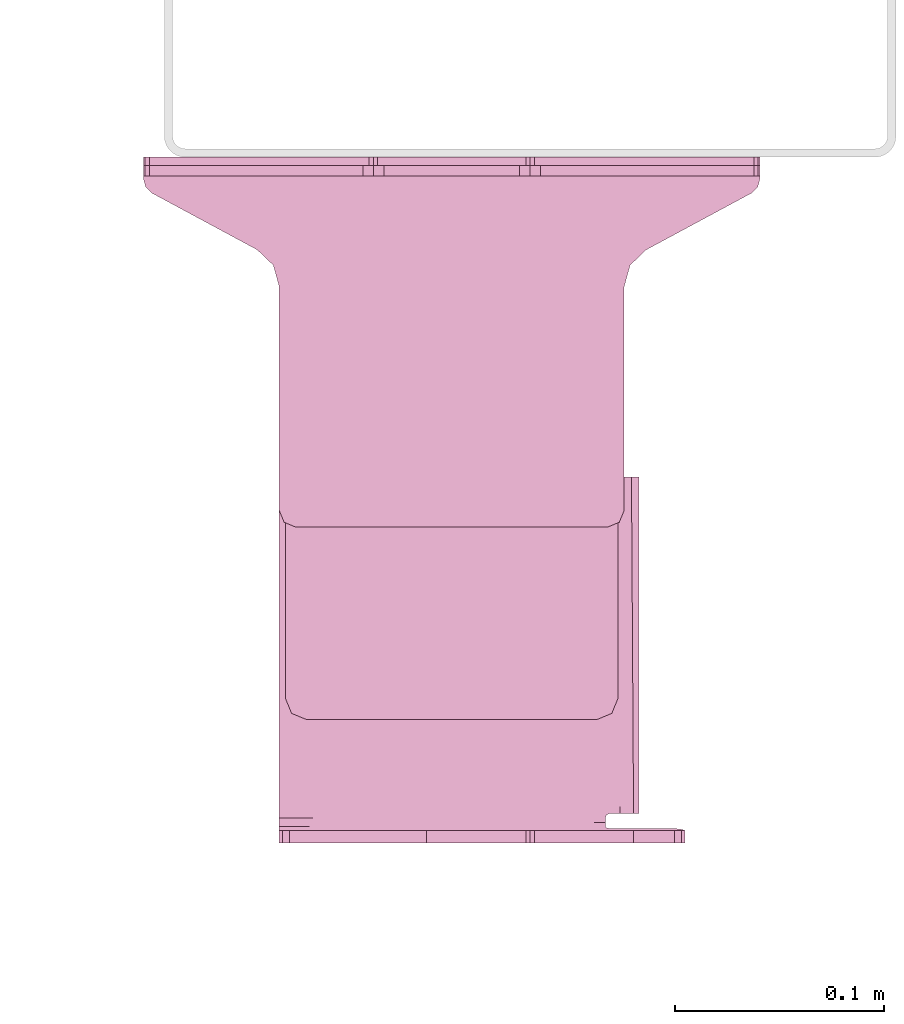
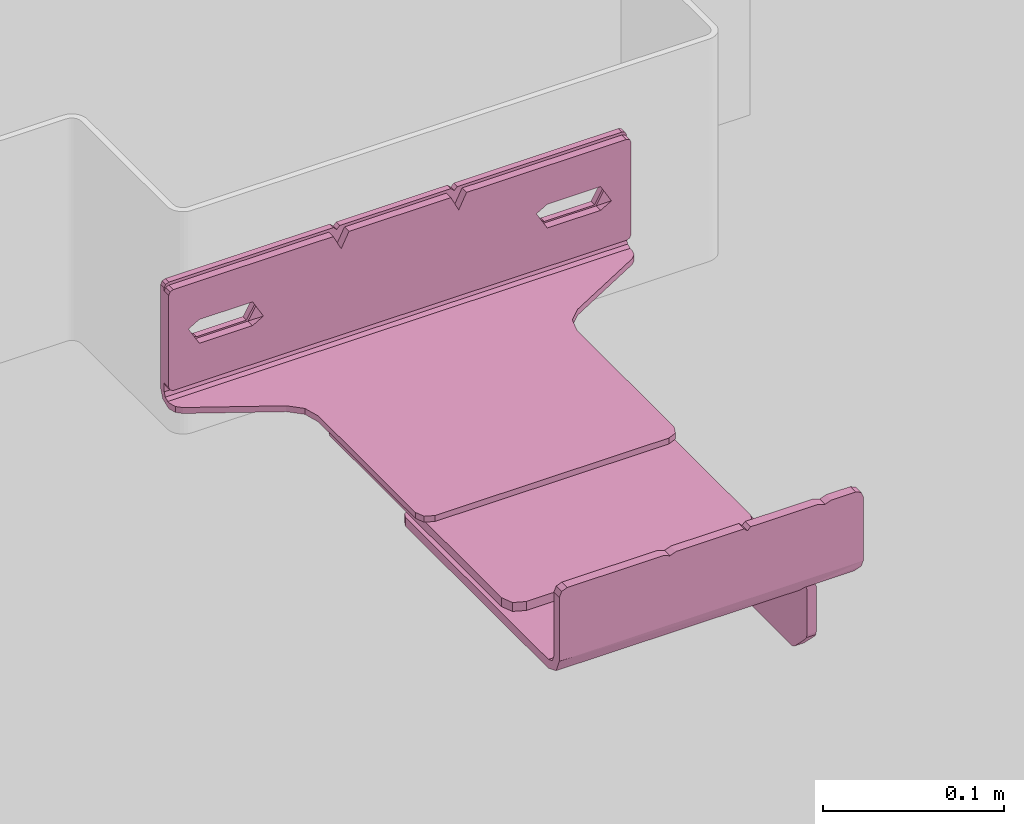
# One storey, part 12 of 15: 1 transport element.
"""IFC2X3 building model written with IfcOpenShell, lengths in millimetres."""

import ifcopenshell
import ifcopenshell.guid

model = None  # the IFC model being written
_history = None  # IfcOwnerHistory: only IFC2X3 demands one
_inside = {}  # id of a spatial element -> (the spatial element, [elements in it])
_under = {}  # id of a project, library or spatial element -> (it, [spatial elements below it])
_declared = {}  # id of a project -> (the project, [libraries it declares])
_typed = {}  # id of a type object -> (the type object, [elements of that type])
_made_of = {}  # id of a material, layer set ... -> (it, [elements and type objects made of it])


def new_model(schema):
    """Start an empty IFC model of exactly this schema.

    Asked for "IFC4X3", IfcOpenShell would pick the latest addendum, in which some entities
    have other attributes; the version numbers below select the first issue.
    IFC2X3 requires an IfcOwnerHistory on every rooted entity: one is made here for all.
    """
    global model, _history
    if schema == "IFC4X3":
        model = ifcopenshell.file(schema_version=(4, 3, 0, 0))
    else:
        model = ifcopenshell.file(schema=schema)
    _inside.clear()
    _under.clear()
    _declared.clear()
    _typed.clear()
    _made_of.clear()
    _history = None
    if model.schema == "IFC2X3":
        org = make("IfcOrganization", Name="unknown")
        user = make(
            "IfcPersonAndOrganization",
            ThePerson=make("IfcPerson", FamilyName="unknown"),
            TheOrganization=org,
        )
        app = make(
            "IfcApplication",
            ApplicationDeveloper=org,
            Version="unknown",
            ApplicationFullName="unknown",
            ApplicationIdentifier="unknown",
        )
        _history = make(
            "IfcOwnerHistory",
            OwningUser=user,
            OwningApplication=app,
            ChangeAction="ADDED",
            CreationDate=0,
        )
    return model


def make(cls, **values):
    """One entity of the class cls with the attributes given. An attribute that is None is left unset."""
    return model.create_entity(
        cls, **{name: value for name, value in values.items() if value is not None}
    )


def entity(cls, *values):
    """Any entity or typed value of the class cls, its attributes in the order of the schema. None: left unset."""
    e = model.create_entity(cls)
    for i, value in enumerate(values):
        if value is not None:
            e[i] = value
    return e


def rooted(cls, **values):
    """An entity with a GlobalId (a new one), such as an element, a storey or a relation."""
    return make(cls, GlobalId=ifcopenshell.guid.new(), OwnerHistory=_history, **values)


def si_unit(unit_type, name, prefix=None):
    """IfcSIUnit, for example si_unit("LENGTHUNIT", "METRE", prefix="MILLI")."""
    return make("IfcSIUnit", UnitType=unit_type, Prefix=prefix, Name=name)


def converted_unit(unit_type, name, factor, base, dimensions=None, offset=None):
    """IfcConversionBasedUnit, such as the inch: factor (a typed value) times the base unit."""
    return make(
        "IfcConversionBasedUnit"
        if offset is None
        else "IfcConversionBasedUnitWithOffset",
        ConversionOffset=offset,
        Dimensions=None
        if dimensions is None
        else entity("IfcDimensionalExponents", *dimensions),
        UnitType=unit_type,
        Name=name,
        ConversionFactor=make(
            "IfcMeasureWithUnit", ValueComponent=factor, UnitComponent=base
        ),
    )


def derived_unit(unit_type, elements):
    """IfcDerivedUnit: a product of units, each with its exponent."""
    return make(
        "IfcDerivedUnit",
        Elements=[
            make("IfcDerivedUnitElement", Unit=unit, Exponent=power)
            for unit, power in elements
        ],
        UnitType=unit_type,
    )


def assignment(units):
    """IfcUnitAssignment: the units of a project."""
    return None if units is None else make("IfcUnitAssignment", Units=units)


def point(xyz):
    """IfcCartesianPoint."""
    return None if xyz is None else make("IfcCartesianPoint", Coordinates=xyz)


def direction(xyz):
    """IfcDirection."""
    return None if xyz is None else make("IfcDirection", DirectionRatios=xyz)


def frame(location, z_axis=None, x_axis=None):
    """IfcAxis2Placement3D, a coordinate frame: its origin and axes. An axis left out is left unset."""
    return make(
        "IfcAxis2Placement3D",
        Location=point(location),
        Axis=direction(z_axis),
        RefDirection=direction(x_axis),
    )


def origin():
    """The frame at (0, 0, 0) with its axes left unset."""
    return frame((0.0, 0.0, 0.0))


def place(relative_to, where):
    """IfcLocalPlacement: puts the frame where relative to a parent placement (None: the world)."""
    return make(
        "IfcLocalPlacement", PlacementRelTo=relative_to, RelativePlacement=where
    )


def context(
    kind, dimensions, precision=None, world=None, true_north=None, identifier=None
):
    """IfcGeometricRepresentationContext, for example the 3D "Model" context."""
    return make(
        "IfcGeometricRepresentationContext",
        ContextIdentifier=identifier,
        ContextType=kind,
        CoordinateSpaceDimension=dimensions,
        Precision=precision,
        WorldCoordinateSystem=world,
        TrueNorth=true_north,
    )


def subcontext(parent, identifier, kind, view, scale=None):
    """IfcGeometricRepresentationSubContext, for example "Body" below "Model"."""
    return make(
        "IfcGeometricRepresentationSubContext",
        ContextIdentifier=identifier,
        ContextType=kind,
        ParentContext=parent,
        TargetScale=scale,
        TargetView=view,
    )


def project(units=None, contexts=None):
    """IfcProject with its units and contexts."""
    return rooted(
        "IfcProject",
        Name="project",
        RepresentationContexts=contexts,
        UnitsInContext=assignment(units),
    )


def spatial(cls, under=None, at=None, **own):
    """A site, building, storey or space (cls), placed at a placement, below another one or the project."""
    s = rooted(cls, ObjectPlacement=at, **own)
    if under is not None:
        _under.setdefault(under.id(), (under, []))[1].append(s)
    return s


def faces_of(points, faces, orient=None, outer=None):
    """IfcFace entities. A face is a list of loops; a loop is a list of indices into points, from 0.

    orient and outer hold one flag for each loop. By default every Orientation is true, the
    first loop of a face is its IfcFaceOuterBound and the others are IfcFaceBound.
    """
    made = []
    for i, loops in enumerate(faces):
        bounds = []
        for j, loop in enumerate(loops):
            is_outer = j == 0 if outer is None else outer[i][j]
            bounds.append(
                make(
                    "IfcFaceOuterBound" if is_outer else "IfcFaceBound",
                    Bound=make("IfcPolyLoop", Polygon=[points[k] for k in loop]),
                    Orientation=True if orient is None else orient[i][j],
                )
            )
        made.append(make("IfcFace", Bounds=bounds))
    return made


def faceted_brep(points, faces, orient=None, outer=None, voids=None):
    """IfcFacetedBrep: a solid bounded by flat faces; with voids (closed shells), ...WithVoids."""
    shared = [point(p) for p in points]
    hull = make("IfcClosedShell", CfsFaces=faces_of(shared, faces, orient, outer))
    if voids is None:
        return make("IfcFacetedBrep", Outer=hull)
    return make(
        "IfcFacetedBrepWithVoids",
        Outer=hull,
        Voids=[
            make(cls, CfsFaces=faces_of(shared, fs, o, b)) for cls, fs, o, b in voids
        ],
    )


def shape(context_of_items, identifier, shape_type, items):
    """IfcShapeRepresentation: the items that make up one representation, for example the "Body"."""
    return make(
        "IfcShapeRepresentation",
        ContextOfItems=context_of_items,
        RepresentationIdentifier=identifier,
        RepresentationType=shape_type,
        Items=items,
    )


def source(mapping_origin, context_of_items, identifier, shape_type, items):
    """IfcRepresentationMap: a shape defined once, which mapped items show again and again."""
    return make(
        "IfcRepresentationMap",
        MappingOrigin=mapping_origin,
        MappedRepresentation=shape(context_of_items, identifier, shape_type, items),
    )


def transform(
    local_origin,
    x_axis=None,
    y_axis=None,
    z_axis=None,
    scale=None,
    scale2=None,
    scale3=None,
    uniform=True,
):
    """IfcCartesianTransformationOperator3D, or its non-uniform kind. x_axis, y_axis, z_axis: its Axis1, 2, 3."""
    if uniform:
        return make(
            "IfcCartesianTransformationOperator3D",
            Axis1=direction(x_axis),
            Axis2=direction(y_axis),
            LocalOrigin=point(local_origin),
            Scale=scale,
            Axis3=direction(z_axis),
        )
    return make(
        "IfcCartesianTransformationOperator3DnonUniform",
        Axis1=direction(x_axis),
        Axis2=direction(y_axis),
        LocalOrigin=point(local_origin),
        Scale=scale,
        Axis3=direction(z_axis),
        Scale2=scale2,
        Scale3=scale3,
    )


def mapped(mapping_source, mapping_target):
    """IfcMappedItem: shows the shape of a source again, moved by a transform."""
    return make(
        "IfcMappedItem", MappingSource=mapping_source, MappingTarget=mapping_target
    )


def material(Name=None, Category=None):
    """IfcMaterial."""
    return make("IfcMaterial", Name=Name, Category=Category)


def made_of(thing, what):
    """Note that an element or type object is made of a material, layer set ...; save() writes the relation."""
    if what is not None:
        _made_of.setdefault(what.id(), (what, []))[1].append(thing)
    return thing


def type_object(cls, material=None, **own):
    """A type object (cls), such as IfcWallType, which elements share."""
    return made_of(rooted(cls, **own), material)


def type_shapes(of_type, sources):
    """Give a type object the sources (RepresentationMaps) that its elements show as mapped items."""
    of_type.RepresentationMaps = sources


def element(
    cls,
    number,
    at=None,
    inside=None,
    cuts=None,
    type_object=None,
    material=None,
    context=None,
    identifier="Body",
    shape_type=None,
    held_by="IfcProductDefinitionShape",
    body=None,
    shapes=None,
    **own,
):
    """One element of the class cls, such as IfcWall. Its Tag is "e" and its number.

    at: its placement. inside: the storey or other place that contains it. cuts: it is an
    opening in that element (IfcRelVoidsElement). A single representation is given by context,
    identifier, shape_type and body (its items); several are given by shapes. held_by: the class
    of the entity that holds the representations. save() writes the other relations.
    """
    e = rooted(cls, Tag="e%d" % number, ObjectPlacement=at, **own)
    if body is not None:
        shapes = [shape(context, identifier, shape_type, body)]
    if shapes is not None:
        e.Representation = make(held_by, Representations=shapes)
    if inside is not None:
        _inside.setdefault(inside.id(), (inside, []))[1].append(e)
    if cuts is not None:
        rooted(
            "IfcRelVoidsElement", RelatingBuildingElement=cuts, RelatedOpeningElement=e
        )
    if type_object is not None:
        _typed.setdefault(type_object.id(), (type_object, []))[1].append(e)
    return made_of(e, material)


def aggregate(whole, parts):
    """IfcRelAggregates: a whole, such as a stair, and the parts it consists of."""
    return rooted("IfcRelAggregates", RelatingObject=whole, RelatedObjects=parts)


def save(model, path):
    """Write the relations noted so far, then the file.

    IfcRelAggregates (storeys below a building ...), IfcRelContainedInSpatialStructure (elements
    in a storey), IfcRelDefinesByType, IfcRelAssociatesMaterial and IfcRelDeclares: one each for
    every whole, place, type object, material and project.
    """
    for whole, parts in _under.values():
        aggregate(whole, parts)
    for where, things in _inside.values():
        rooted(
            "IfcRelContainedInSpatialStructure",
            RelatedElements=things,
            RelatingStructure=where,
        )
    for kind, things in _typed.values():
        rooted("IfcRelDefinesByType", RelatedObjects=things, RelatingType=kind)
    for what, things in _made_of.values():
        rooted("IfcRelAssociatesMaterial", RelatedObjects=things, RelatingMaterial=what)
    for by, libraries in _declared.values():
        rooted("IfcRelDeclares", RelatingContext=by, RelatedDefinitions=libraries)
    model.write(path)


model = new_model("IFC2X3")

# Units and contexts
model_context = context("Model", 3, precision=0.01, world=origin(), true_north=direction((6.12303176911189e-17, 1.0)))
body_context = subcontext(model_context, "Body", "Model", "MODEL_VIEW")
ifc_project = project(units=[si_unit("LENGTHUNIT", "METRE", prefix="MILLI"), si_unit("AREAUNIT", "SQUARE_METRE"), si_unit("VOLUMEUNIT", "CUBIC_METRE"), converted_unit("PLANEANGLEUNIT", "DEGREE", entity("IfcRatioMeasure", 0.0174532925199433), si_unit("PLANEANGLEUNIT", "RADIAN"), dimensions=[0, 0, 0, 0, 0, 0, 0]), si_unit("MASSUNIT", "GRAM", prefix="KILO"), derived_unit("MASSDENSITYUNIT", [(si_unit("MASSUNIT", "GRAM", prefix="KILO"), 1), (si_unit("LENGTHUNIT", "METRE"), -3)]), si_unit("TIMEUNIT", "SECOND"), si_unit("FREQUENCYUNIT", "HERTZ"), si_unit("THERMODYNAMICTEMPERATUREUNIT", "DEGREE_CELSIUS"), derived_unit("THERMALTRANSMITTANCEUNIT", [(si_unit("MASSUNIT", "GRAM", prefix="KILO"), 1), (si_unit("THERMODYNAMICTEMPERATUREUNIT", "KELVIN"), -1), (si_unit("TIMEUNIT", "SECOND"), -3)]), derived_unit("VOLUMETRICFLOWRATEUNIT", [(si_unit("LENGTHUNIT", "METRE"), 3), (si_unit("TIMEUNIT", "SECOND"), -1)]), si_unit("ELECTRICCURRENTUNIT", "AMPERE"), si_unit("ELECTRICVOLTAGEUNIT", "VOLT"), si_unit("POWERUNIT", "WATT"), si_unit("FORCEUNIT", "NEWTON", prefix="KILO"), si_unit("ILLUMINANCEUNIT", "LUX"), si_unit("LUMINOUSFLUXUNIT", "LUMEN"), si_unit("LUMINOUSINTENSITYUNIT", "CANDELA"), derived_unit("USERDEFINED", [(si_unit("MASSUNIT", "GRAM", prefix="KILO"), -1), (si_unit("LENGTHUNIT", "METRE"), -2), (si_unit("TIMEUNIT", "SECOND"), 3), (si_unit("LUMINOUSFLUXUNIT", "LUMEN"), 1)]), derived_unit("LINEARVELOCITYUNIT", [(si_unit("LENGTHUNIT", "METRE"), 1), (si_unit("TIMEUNIT", "SECOND"), -1)]), si_unit("PRESSUREUNIT", "PASCAL"), derived_unit("USERDEFINED", [(si_unit("LENGTHUNIT", "METRE"), -2), (si_unit("MASSUNIT", "GRAM", prefix="KILO"), 1), (si_unit("TIMEUNIT", "SECOND"), -2)])], contexts=[model_context])

# Site, building, storey, space
site_placement = place(None, frame((-151.875543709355, 2715.0, 0.0)))
site = spatial("IfcSite", under=ifc_project, at=site_placement, Name="Surface", CompositionType="ELEMENT")
building_placement = place(site_placement, origin())
building = spatial("IfcBuilding", under=site, at=building_placement, CompositionType="ELEMENT")
storey_placement = place(building_placement, frame((0.0, 0.0, 7670.0)))
storey = spatial("IfcBuildingStorey", under=building, at=storey_placement, Name="uus 3 korrus", CompositionType="ELEMENT", Elevation=7670.00000000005)
space_placement = place(storey_placement, origin())
space = spatial("IfcSpace", under=storey, at=space_placement, Name="327a", CompositionType="ELEMENT", InteriorOrExteriorSpace="INTERNAL")

# Transport element
ifc_material = material(Name="Generic")
transport_element_type = type_object("IfcTransportElementType", Name="KONE_Car_Bracket_KM51029396V001_L184-394", material=ifc_material)
shared_shape = source(origin(), body_context, "Body", "Brep", [
    faceted_brep([(69.5952722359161, 67.5952722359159, 70.5952722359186), (72.5242044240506, 67.5952722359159, 63.5242044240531), (72.5242044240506, 61.5952722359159, 63.5242044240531), (69.5952722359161, 61.5952722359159, 70.5952722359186), (79.5952722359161, 67.5952722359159, 60.5952722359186), (79.5952722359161, 61.5952722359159, 60.5952722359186), (218.595272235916, 67.5952722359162, 60.5952722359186), (218.595272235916, 61.5952722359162, 60.5952722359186), (69.5952722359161, 67.5952722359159, 260.595272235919), (72.5242044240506, 67.5952722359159, 267.666340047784), (79.5952722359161, 67.5952722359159, 270.595272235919), (218.595272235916, 67.5952722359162, 270.595272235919), (225.666340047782, 67.5952722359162, 267.666340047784), (228.595272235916, 67.5952722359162, 260.595272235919), (228.595272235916, 67.5952722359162, 70.5952722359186), (225.666340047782, 67.5952722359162, 63.5242044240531), (69.5952722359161, 61.5952722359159, 260.595272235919), (72.5242044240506, 61.5952722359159, 267.666340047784), (79.5952722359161, 61.5952722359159, 270.595272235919), (218.595272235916, 61.5952722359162, 270.595272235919), (225.666340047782, 61.5952722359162, 63.5242044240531), (228.595272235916, 61.5952722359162, 70.5952722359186), (228.595272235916, 61.5952722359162, 260.595272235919), (225.666340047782, 61.5952722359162, 267.666340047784)], [[[0, 1, 2, 3]], [[4, 5, 2, 1]], [[5, 4, 6, 7]], [[4, 1, 0, 8, 9, 10, 11, 12, 13, 14, 15, 6]], [[8, 16, 17, 9]], [[17, 18, 10, 9]], [[11, 10, 18, 19]], [[18, 17, 16, 3, 2, 5, 7, 20, 21, 22, 23, 19]], [[21, 20, 15, 14]], [[7, 6, 15, 20]], [[21, 14, 13, 22]], [[22, 13, 12, 23]], [[12, 11, 19, 23]], [[16, 8, 0, 3]]]),
    faceted_brep([(226.595272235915, 115.595272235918, 1.59527223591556), (230.130806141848, 114.130806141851, 1.59527223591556), (231.595272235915, 110.595272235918, 1.59527223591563), (231.595272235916, 67.595272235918, 1.59527223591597), (37.6284704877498, 67.5952722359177, 1.59527223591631), (37.6035786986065, 67.8824046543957, 1.59527223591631), (37.5952722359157, 68.1704942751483, 1.59527223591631), (37.5952722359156, 110.595272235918, 1.59527223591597), (39.0597383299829, 114.13080614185, 1.5952722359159), (42.5952722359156, 115.595272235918, 1.5952722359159), (57.9419603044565, 115.595272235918, 1.5952722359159), (62.0952722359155, 114.095272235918, 1.5952722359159), (66.2485841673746, 115.595272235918, 1.59527223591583), (109.595272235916, 115.595272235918, 1.59527223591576), (111.595272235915, 113.595272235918, 1.59527223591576), (113.595272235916, 115.595272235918, 1.59527223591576), (156.941960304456, 115.595272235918, 1.5952722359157), (161.095272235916, 114.095272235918, 1.5952722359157), (165.248584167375, 115.595272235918, 1.5952722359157), (37.6284704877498, 67.5952722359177, 3.64034257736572), (37.6284704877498, 67.5952722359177, 5.6854129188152), (37.6284704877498, 67.5952722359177, 7.59527223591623), (37.6035786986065, 67.8824046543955, 7.59527223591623), (37.5952722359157, 68.1704942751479, 7.59527223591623), (71.5952722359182, 55.5952722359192, 176.595272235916), (71.5952722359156, 55.5952722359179, 15.5952722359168), (73.5952722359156, 55.5952722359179, 15.5952722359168), (75.0094857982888, 55.5952722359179, 15.0094857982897), (75.5952722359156, 55.5952722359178, 13.5952722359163), (231.595272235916, 55.5952722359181, 13.595272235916), (231.595272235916, 55.5952722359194, 171.595272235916), (230.130806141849, 55.5952722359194, 175.130806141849), (226.595272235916, 55.5952722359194, 176.595272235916), (65.5952722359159, 3.05973832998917, 163.059738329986), (65.5952722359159, 1.97587457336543, 161.437621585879), (65.5952722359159, 1.59527223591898, 159.524204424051), (65.5952722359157, 1.595272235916, 32.6663400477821), (65.5952722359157, 1.97587457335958, 30.7529228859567), (65.5952722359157, 3.05973832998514, 29.1308061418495), (65.5952722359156, 15.1308061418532, 17.059738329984), (65.5952722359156, 16.7529228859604, 15.9758745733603), (65.5952722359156, 18.6663400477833, 15.5952722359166), (65.5952722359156, 28.0200501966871, 15.5952722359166), (65.5952722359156, 49.5952722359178, 15.5952722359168), (65.5952722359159, 49.5952722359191, 176.595272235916), (65.5952722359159, 18.6663400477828, 176.595272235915), (65.5952722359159, 16.7529228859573, 176.214669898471), (65.5952722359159, 15.1308061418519, 175.130806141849), (73.5952722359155, 61.2271358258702, 3.42439033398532), (231.595272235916, 59.1099908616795, 5.10999086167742), (38.6343353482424, 63.9007995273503, 2.17814162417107), (42.5952722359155, 61.2271358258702, 3.42439033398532), (40.5251798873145, 62.6244645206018, 2.77306717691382), (75.5952722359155, 56.4480658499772, 9.15232391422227), (75.5952722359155, 58.8852372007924, 5.34086191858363), (75.3788802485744, 59.5653943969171, 4.72983140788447), (75.1394379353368, 60.3180027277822, 4.05371321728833), (74.3673550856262, 60.7725692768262, 3.73905177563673), (66.8515457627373, 53.2691066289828, 15.5952722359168), (67.352631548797, 53.8379129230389, 176.595272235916), (70.0942919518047, 55.4044940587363, 15.5952722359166), (70.8387442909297, 55.547386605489, 15.5952722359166), (37.5952722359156, 110.595272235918, 7.59527223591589), (39.0597383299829, 114.13080614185, 7.59527223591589), (42.5952722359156, 115.595272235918, 7.59527223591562), (231.595272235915, 110.595272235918, 7.59527223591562), (231.595272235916, 67.5952722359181, 7.59527223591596), (231.595272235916, 63.3526315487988, 9.35263154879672), (231.595272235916, 61.5952722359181, 13.595272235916), (231.595272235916, 61.5952722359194, 171.595272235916), (226.595272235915, 115.595272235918, 7.59527223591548), (230.130806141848, 114.130806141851, 7.59527223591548), (156.941960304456, 115.595272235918, 7.59527223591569), (113.595272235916, 115.595272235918, 7.59527223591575), (165.248584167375, 115.595272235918, 7.59527223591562), (109.595272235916, 115.595272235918, 7.59527223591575), (66.2485841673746, 115.595272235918, 7.59527223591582), (57.9419603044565, 115.595272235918, 7.59527223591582), (161.095272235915, 114.095272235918, 7.59527223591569), (111.595272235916, 113.595272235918, 7.59527223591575), (62.0952722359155, 114.095272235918, 7.59527223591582), (71.5952722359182, 58.5952722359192, 176.595272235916), (226.595272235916, 61.5952722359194, 176.595272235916), (71.5952722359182, 61.5952722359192, 176.595272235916), (63.1099908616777, 58.0805536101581, 176.595272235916), (59.5952722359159, 49.5952722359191, 176.595272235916), (59.5952722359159, 18.6663400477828, 176.595272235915), (230.130806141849, 61.5952722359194, 175.130806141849), (59.595272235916, 18.6663400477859, 15.5952722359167), (59.5952722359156, 16.7529228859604, 15.9758745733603), (59.5952722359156, 15.1308061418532, 17.059738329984), (59.5952722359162, 3.05973832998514, 29.1308061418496), (59.5952722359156, 1.595272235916, 32.6663400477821), (59.5952722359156, 1.97587457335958, 30.7529228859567), (59.5952722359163, 1.595272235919, 159.524204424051), (59.5952722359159, 1.9758745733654, 161.437621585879), (59.5952722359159, 3.05973832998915, 163.059738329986), (59.5952722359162, 15.1308061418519, 175.130806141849), (59.5952722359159, 16.7529228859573, 176.214669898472), (75.0094857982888, 61.5952722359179, 15.0094857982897), (73.5952722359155, 61.5952722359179, 15.5952722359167), (71.5952722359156, 61.5952722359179, 15.5952722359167), (75.5952722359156, 61.5952722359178, 13.5952722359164), (59.5952722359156, 49.5952722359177, 15.5952722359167), (59.5952722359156, 28.020050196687, 15.5952722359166), (73.5952722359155, 64.4112040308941, 8.50983128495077), (38.4171758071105, 66.5517977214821, 7.81905066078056), (39.488083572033, 65.1349631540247, 8.12289805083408), (42.5952722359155, 64.411204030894, 8.50983128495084), (75.5952722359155, 62.0216690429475, 11.3737980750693), (75.5952722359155, 63.2402547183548, 9.46806707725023), (74.9122724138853, 64.0993270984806, 8.71896547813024), (62.1078192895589, 56.9429410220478, 15.5952722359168), (68.5933116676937, 61.2137158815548, 15.5952722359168), (70.0822163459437, 61.4995009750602, 15.5952722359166), (62.5952722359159, 28.0200501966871, 15.5952722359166), (62.5952722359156, 49.5952722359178, 15.5952722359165), (69.3438018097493, 58.3091049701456, 15.5952722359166), (42.5952722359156, 62.2884918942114, 5.11953731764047), (73.5952722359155, 62.0082462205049, 4.67194237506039), (73.5952722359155, 63.3498479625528, 6.81468430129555), (42.5952722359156, 63.3498479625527, 6.81468430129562), (75.5952722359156, 62.1682703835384, 8.4521585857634), (75.5952722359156, 60.3369097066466, 6.71659697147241), (75.1773020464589, 61.9854684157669, 6.33178978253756), (74.5576725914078, 63.018129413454, 6.77008166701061), (75.1888796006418, 62.9910249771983, 7.65785437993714), (74.4643994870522, 62.0836404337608, 5.26641717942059), (40.6636232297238, 63.0740749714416, 5.51840929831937), (38.7335158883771, 65.1496559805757, 6.42524138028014), (38.8110475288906, 64.4780716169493, 4.79301723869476), (40.5644467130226, 63.980378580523, 7.05454162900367)], [[[0, 1, 2, 3, 4, 5, 6, 7, 8, 9, 10, 11, 12, 13, 14, 15, 16, 17, 18]], [[19, 20, 21, 22, 5, 4]], [[22, 23, 6, 5]], [[24, 25, 26, 27, 28, 29, 30, 31, 32]], [[33, 34, 35, 36, 37, 38, 39, 40, 41, 42, 43, 44, 45, 46, 47]], [[3, 48, 4]], [[48, 3, 49]], [[48, 50, 4]], [[48, 51, 52, 50]], [[49, 29, 53]], [[53, 29, 28]], [[49, 53, 54]], [[49, 54, 55, 56]], [[49, 56, 57, 48]], [[58, 59, 44]], [[44, 43, 58]], [[58, 60, 59]], [[61, 24, 60]], [[59, 60, 24]], [[24, 61, 25]], [[7, 62, 63, 8]], [[63, 64, 9, 8]], [[6, 23, 62, 7]], [[65, 66, 67, 68, 69, 30, 29, 49, 3, 2]], [[0, 70, 71, 1]], [[71, 65, 2, 1]], [[72, 16, 15, 73]], [[0, 18, 74, 70]], [[75, 13, 12, 76]], [[10, 9, 64, 77]], [[17, 78, 74, 18]], [[16, 72, 78, 17]], [[15, 14, 79, 73]], [[75, 79, 14, 13]], [[11, 80, 76, 12]], [[10, 77, 80, 11]], [[81, 32, 82]], [[32, 81, 24]], [[81, 82, 83]], [[59, 24, 81]], [[83, 84, 81]], [[81, 84, 59]], [[84, 85, 59]], [[59, 85, 44]], [[85, 45, 44]], [[45, 85, 86]], [[30, 69, 87, 31]], [[87, 82, 32, 31]], [[88, 41, 40, 89]], [[40, 39, 90, 89]], [[39, 38, 91, 90]], [[36, 92, 93, 37]], [[93, 91, 38, 37]], [[94, 92, 36, 35]], [[94, 35, 34, 95]], [[34, 33, 96, 95]], [[97, 96, 33, 47]], [[45, 86, 98, 46]], [[98, 97, 47, 46]], [[66, 65, 71, 70, 74, 78, 72, 73, 79, 75, 76, 80, 77, 64, 63, 62, 23, 22, 21]], [[99, 100, 101, 83, 82, 87, 69, 68, 102]], [[94, 95, 96, 97, 98, 86, 85, 103, 104, 88, 89, 90, 91, 93, 92]], [[21, 105, 66]], [[67, 66, 105]], [[105, 21, 106, 107]], [[108, 105, 107]], [[109, 68, 67]], [[102, 68, 109]], [[110, 109, 67]], [[67, 111, 110]], [[105, 111, 67]], [[85, 84, 112]], [[112, 103, 85]], [[84, 113, 112]], [[113, 83, 114]], [[83, 113, 84]], [[101, 114, 83]], [[115, 88, 104]], [[88, 115, 41]], [[42, 41, 115]], [[115, 104, 103]], [[116, 115, 103]], [[116, 43, 115]], [[42, 115, 43]], [[43, 116, 58]], [[112, 116, 103]], [[112, 58, 116]], [[58, 112, 117]], [[117, 112, 113]], [[114, 117, 113]], [[101, 117, 114]], [[25, 117, 101]], [[25, 101, 100]], [[100, 26, 25]], [[61, 117, 25]], [[60, 117, 61]], [[117, 60, 58]], [[118, 51, 48, 119, 120, 105, 108, 121]], [[54, 53, 28, 102, 109, 110, 122, 123]], [[56, 55, 124]], [[120, 125, 105]], [[126, 122, 110]], [[124, 123, 122]], [[55, 123, 124]], [[125, 124, 126]], [[127, 57, 56]], [[124, 125, 127]], [[127, 119, 57]], [[105, 125, 111]], [[119, 127, 120]], [[127, 125, 120]], [[124, 127, 56]], [[119, 48, 57]], [[111, 125, 126]], [[111, 126, 110]], [[126, 124, 122]], [[55, 54, 123]], [[99, 27, 26, 100]], [[102, 28, 27, 99]], [[128, 118, 121]], [[20, 129, 106]], [[52, 118, 128]], [[52, 130, 50]], [[128, 121, 131]], [[131, 130, 128]], [[19, 130, 20]], [[129, 131, 107]], [[50, 19, 4]], [[50, 130, 19]], [[20, 106, 21]], [[107, 131, 108]], [[52, 128, 130]], [[129, 107, 106]], [[129, 20, 130]], [[52, 51, 118]], [[131, 129, 130]], [[108, 131, 121]]]),
    faceted_brep([(66.5952722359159, 67.5952722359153, 160.595272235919), (68.9384179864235, 67.5952722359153, 154.938417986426), (74.5952722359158, 67.5952722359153, 152.595272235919), (223.595272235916, 67.5952722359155, 152.595272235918), (229.252126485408, 67.5952722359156, 154.938417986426), (231.595272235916, 67.5952722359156, 160.595272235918), (231.595272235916, 67.5952722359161, 267.64939060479), (233.010111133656, 67.5952722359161, 272.777256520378), (234.424950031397, 67.5952722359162, 277.905122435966), (238.629284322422, 67.5952722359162, 281.92646242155), (242.113275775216, 67.5952722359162, 285.258812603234), (292.388070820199, 67.5952722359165, 312.329856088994), (295.463401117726, 67.5952722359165, 315.271332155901), (296.595272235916, 67.5952722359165, 319.37362488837), (296.595272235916, 67.5952722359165, 321.595272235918), (1.59527223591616, 67.595272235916, 321.595272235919), (1.59527223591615, 67.595272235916, 319.37362488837), (2.72714335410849, 67.595272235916, 315.2713321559), (5.80247365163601, 67.5952722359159, 312.329856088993), (56.0772686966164, 67.5952722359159, 285.258812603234), (59.9214315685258, 67.5952722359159, 281.5819675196), (63.7655944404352, 67.5952722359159, 277.905122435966), (65.3129939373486, 67.5952722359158, 272.296811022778), (66.595272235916, 67.5952722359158, 267.64939060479), (296.595272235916, 145.595272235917, 329.595272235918), (295.716592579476, 147.716592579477, 329.595272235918), (293.595272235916, 148.595272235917, 329.595272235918), (276.095272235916, 123.595272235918, 329.595272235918), (283.889500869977, 110.095272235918, 329.595272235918), (296.595272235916, 75.5952722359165, 329.595272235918), (244.095272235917, 123.595272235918, 329.595272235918), (188.595272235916, 148.595272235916, 329.595272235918), (236.301043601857, 119.095272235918, 329.595272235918), (186.595272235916, 146.595272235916, 329.595272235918), (244.095272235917, 105.595272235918, 329.595272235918), (61.8895008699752, 110.095272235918, 329.595272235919), (111.595272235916, 146.595272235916, 329.595272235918), (184.595272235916, 148.595272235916, 329.595272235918), (113.595272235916, 148.595272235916, 329.595272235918), (109.595272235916, 148.595272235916, 329.595272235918), (54.0952722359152, 123.595272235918, 329.595272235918), (4.59527223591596, 148.595272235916, 329.595272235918), (22.0952722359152, 123.595272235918, 329.595272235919), (1.59527223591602, 145.595272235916, 329.595272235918), (2.47395189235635, 147.716592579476, 329.595272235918), (14.3010436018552, 119.095272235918, 329.595272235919), (1.59527223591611, 75.595272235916, 329.595272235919), (22.0952722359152, 105.595272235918, 329.595272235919), (54.0952722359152, 105.595272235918, 329.595272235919), (276.095272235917, 105.595272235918, 329.595272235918), (296.595272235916, 69.9384179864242, 327.252126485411), (1.59527223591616, 69.9384179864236, 327.252126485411), (1.59527223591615, 72.7668451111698, 324.423699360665), (296.595272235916, 72.7668451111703, 324.423699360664), (296.595272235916, 71.5952722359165, 321.595272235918), (1.59527223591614, 71.595272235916, 321.595272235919), (1.59527223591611, 75.595272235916, 325.595272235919), (296.595272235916, 75.5952722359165, 325.595272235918), (1.59527223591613, 71.595272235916, 319.37362488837), (1.59527223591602, 145.595272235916, 325.595272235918), (296.595272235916, 71.5952722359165, 319.37362488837), (296.595272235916, 145.595272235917, 325.595272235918), (242.113275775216, 71.5952722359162, 285.258812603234), (292.388070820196, 71.5952722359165, 312.329856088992), (231.595272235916, 71.5952722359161, 267.64939060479), (233.010111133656, 71.5952722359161, 272.777256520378), (234.424950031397, 71.5952722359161, 277.905122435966), (238.269112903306, 71.5952722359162, 281.5819675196), (231.595272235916, 71.5952722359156, 160.595272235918), (223.595272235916, 71.5952722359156, 152.595272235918), (229.252126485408, 71.5952722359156, 154.938417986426), (74.5952722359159, 71.5952722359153, 152.595272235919), (66.5952722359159, 71.5952722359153, 160.595272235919), (68.9384179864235, 71.5952722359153, 154.938417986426), (66.5952722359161, 71.5952722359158, 267.64939060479), (56.0772686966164, 71.5952722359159, 285.258812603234), (59.9214315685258, 71.5952722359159, 281.5819675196), (63.7655944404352, 71.5952722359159, 277.905122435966), (65.1804333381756, 71.5952722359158, 272.777256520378), (5.802473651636, 71.5952722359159, 312.329856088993), (2.72714335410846, 71.595272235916, 315.2713321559), (295.463401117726, 71.5952722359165, 315.271332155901), (276.095272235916, 105.595272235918, 325.595272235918), (244.095272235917, 105.595272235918, 325.595272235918), (54.0952722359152, 105.595272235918, 325.595272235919), (22.0952722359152, 105.595272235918, 325.595272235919), (283.889500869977, 110.095272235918, 325.595272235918), (276.095272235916, 123.595272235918, 325.595272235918), (244.095272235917, 123.595272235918, 325.595272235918), (22.0952722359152, 123.595272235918, 325.595272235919), (54.0952722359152, 123.595272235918, 325.595272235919), (236.301043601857, 119.095272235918, 325.595272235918), (14.3010436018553, 119.095272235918, 325.595272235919), (61.8895008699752, 110.095272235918, 325.595272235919), (293.595272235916, 148.595272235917, 325.595272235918), (295.716592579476, 147.716592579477, 325.595272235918), (188.595272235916, 148.595272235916, 325.595272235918), (4.59527223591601, 148.595272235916, 325.595272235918), (2.47395189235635, 147.716592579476, 325.595272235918), (109.595272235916, 148.595272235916, 325.595272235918), (111.595272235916, 146.595272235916, 325.595272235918), (186.595272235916, 146.595272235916, 325.595272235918), (184.595272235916, 148.595272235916, 325.595272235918), (113.595272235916, 148.595272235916, 325.595272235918)], [[[0, 1, 2, 3, 4, 5, 6, 7, 8, 9, 10, 11, 12, 13, 14, 15, 16, 17, 18, 19, 20, 21, 22, 23]], [[24, 25, 26]], [[27, 24, 26]], [[27, 28, 24]], [[28, 29, 24]], [[27, 26, 30]], [[26, 31, 30]], [[32, 30, 31]], [[33, 32, 31]], [[32, 33, 34]], [[33, 35, 34]], [[36, 35, 33]], [[33, 37, 36]], [[38, 36, 37]], [[35, 36, 39]], [[40, 35, 39]], [[40, 39, 41]], [[40, 41, 42]], [[42, 41, 43]], [[41, 44, 43]], [[45, 42, 43]], [[45, 43, 46]], [[29, 34, 46]], [[46, 47, 45]], [[47, 46, 48]], [[48, 46, 34]], [[49, 34, 29]], [[35, 48, 34]], [[49, 29, 28]], [[15, 14, 50, 51]], [[50, 29, 46, 51]], [[52, 53, 54, 55]], [[56, 57, 53, 52]], [[52, 55, 58, 16, 15, 51, 46, 43, 59, 56]], [[14, 13, 60, 54, 53, 57, 61, 24, 29, 50]], [[10, 62, 63, 11]], [[64, 65, 66, 8, 7, 6]], [[66, 67, 62, 10, 9, 8]], [[5, 68, 64, 6]], [[3, 69, 70, 4]], [[70, 68, 5, 4]], [[2, 71, 69, 3]], [[0, 72, 73, 1]], [[73, 71, 2, 1]], [[74, 72, 0, 23]], [[75, 76, 77, 21, 20, 19]], [[77, 78, 74, 23, 22, 21]], [[18, 79, 75, 19]], [[16, 58, 80, 17]], [[80, 79, 18, 17]], [[11, 63, 81, 12]], [[81, 60, 13, 12]], [[74, 78, 77, 76, 75, 79, 80, 58, 55, 54, 60, 81, 63, 62, 67, 66, 65, 64, 68, 70, 69, 71, 73, 72]], [[49, 82, 83, 34]], [[48, 84, 85, 47]], [[28, 86, 82, 49]], [[27, 87, 86, 28]], [[30, 88, 87, 27]], [[42, 89, 90, 40]], [[32, 91, 88, 30]], [[34, 83, 91, 32]], [[45, 92, 89, 42]], [[47, 85, 92, 45]], [[35, 93, 84, 48]], [[40, 90, 93, 35]], [[94, 95, 61]], [[94, 61, 87]], [[88, 94, 87]], [[88, 96, 94]], [[61, 86, 87]], [[61, 57, 86]], [[86, 57, 82]], [[57, 83, 82]], [[56, 83, 57]], [[83, 56, 84]], [[84, 56, 85]], [[92, 85, 56]], [[56, 59, 92]], [[59, 89, 92]], [[59, 97, 89]], [[59, 98, 97]], [[89, 97, 90]], [[97, 99, 90]], [[99, 93, 90]], [[99, 100, 93]], [[101, 93, 100]], [[100, 102, 101]], [[102, 100, 103]], [[96, 91, 101]], [[83, 101, 91]], [[83, 93, 101]], [[96, 88, 91]], [[83, 84, 93]], [[39, 99, 97, 41]], [[94, 96, 31, 26]], [[102, 103, 38, 37]], [[36, 38, 103, 100]], [[101, 102, 37, 33]], [[33, 31, 96, 101]], [[100, 99, 39, 36]], [[41, 97, 98, 44]], [[98, 59, 43, 44]], [[24, 61, 95, 25]], [[95, 94, 26, 25]]]),
    faceted_brep([(293.595272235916, 146.595272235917, 320.595272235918), (295.716592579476, 145.716592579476, 320.595272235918), (296.595272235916, 143.595272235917, 320.595272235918), (277.095272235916, 120.595272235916, 320.595272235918), (243.095272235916, 120.595272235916, 320.595272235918), (191.595272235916, 146.595272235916, 320.595272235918), (284.023475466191, 116.595272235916, 320.595272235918), (296.595272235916, 81.5952722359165, 320.595272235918), (277.095272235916, 104.595272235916, 320.595272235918), (293.595272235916, 78.5952722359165, 320.595272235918), (295.716592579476, 79.4739518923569, 320.595272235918), (243.095272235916, 104.595272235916, 320.595272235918), (4.59527223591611, 78.595272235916, 320.595272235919), (55.0952722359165, 104.595272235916, 320.595272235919), (21.0952722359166, 104.595272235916, 320.595272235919), (1.59527223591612, 81.595272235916, 320.595272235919), (2.47395189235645, 79.4739518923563, 320.595272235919), (14.1670690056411, 108.595272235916, 320.595272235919), (1.595272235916, 143.595272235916, 320.595272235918), (21.0952722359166, 120.595272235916, 320.595272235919), (4.595272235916, 146.595272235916, 320.595272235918), (2.47395189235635, 145.716592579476, 320.595272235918), (55.0952722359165, 120.595272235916, 320.595272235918), (106.595272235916, 146.595272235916, 320.595272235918), (62.0234754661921, 116.595272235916, 320.595272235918), (111.595272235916, 136.595272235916, 320.595272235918), (236.16706900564, 108.595272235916, 320.595272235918), (186.595272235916, 136.595272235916, 320.595272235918), (116.595272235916, 146.595272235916, 320.595272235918), (181.595272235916, 146.595272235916, 320.595272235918), (296.595272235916, 143.595272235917, 325.595272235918), (295.716592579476, 145.716592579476, 325.595272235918), (293.595272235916, 146.595272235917, 325.595272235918), (277.095272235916, 120.595272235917, 325.595272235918), (284.023475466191, 108.595272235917, 325.595272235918), (296.595272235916, 81.5952722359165, 325.595272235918), (243.095272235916, 120.595272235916, 325.595272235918), (191.595272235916, 146.595272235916, 325.595272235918), (236.16706900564, 116.595272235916, 325.595272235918), (186.595272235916, 136.595272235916, 325.595272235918), (243.095272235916, 104.595272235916, 325.595272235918), (62.023475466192, 108.595272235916, 325.595272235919), (111.595272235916, 136.595272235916, 325.595272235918), (116.595272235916, 146.595272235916, 325.595272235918), (181.595272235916, 146.595272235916, 325.595272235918), (106.595272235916, 146.595272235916, 325.595272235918), (55.0952722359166, 120.595272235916, 325.595272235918), (4.59527223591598, 146.595272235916, 325.595272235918), (21.0952722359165, 120.595272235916, 325.595272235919), (1.59527223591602, 143.595272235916, 325.595272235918), (2.47395189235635, 145.716592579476, 325.595272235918), (14.1670690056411, 116.595272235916, 325.595272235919), (1.5952722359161, 81.595272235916, 325.595272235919), (21.0952722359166, 104.595272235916, 325.595272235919), (4.59527223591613, 78.595272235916, 325.595272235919), (2.47395189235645, 79.4739518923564, 325.595272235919), (293.595272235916, 78.5952722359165, 325.595272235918), (55.0952722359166, 104.595272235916, 325.595272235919), (277.095272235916, 104.595272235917, 325.595272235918), (295.716592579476, 79.4739518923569, 325.595272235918)], [[[0, 1, 2]], [[3, 0, 2]], [[3, 4, 0]], [[4, 5, 0]], [[6, 3, 2]], [[2, 7, 6]], [[8, 6, 7]], [[8, 7, 9]], [[7, 10, 9]], [[9, 11, 8]], [[12, 11, 9]], [[11, 12, 13]], [[12, 14, 13]], [[14, 12, 15]], [[15, 12, 16]], [[17, 14, 15]], [[18, 17, 15]], [[17, 18, 19]], [[20, 19, 18]], [[18, 21, 20]], [[20, 22, 19]], [[22, 20, 23]], [[23, 24, 22]], [[23, 25, 24]], [[25, 13, 24]], [[26, 13, 25]], [[25, 27, 26]], [[27, 25, 28]], [[27, 28, 29]], [[27, 5, 26]], [[5, 4, 26]], [[13, 26, 11]], [[30, 31, 32]], [[30, 32, 33]], [[30, 33, 34]], [[34, 35, 30]], [[32, 36, 33]], [[32, 37, 36]], [[38, 36, 37]], [[38, 37, 39]], [[38, 39, 40]], [[39, 41, 40]], [[41, 39, 42]], [[43, 42, 39]], [[44, 43, 39]], [[41, 42, 45]], [[46, 41, 45]], [[45, 47, 46]], [[48, 46, 47]], [[49, 48, 47]], [[47, 50, 49]], [[48, 49, 51]], [[52, 51, 49]], [[52, 53, 51]], [[52, 54, 53]], [[55, 54, 52]], [[56, 40, 54]], [[57, 53, 54]], [[57, 54, 40]], [[58, 40, 56]], [[57, 40, 41]], [[56, 35, 58]], [[56, 59, 35]], [[35, 34, 58]], [[54, 12, 9, 56]], [[7, 2, 30, 35]], [[32, 0, 5, 37]], [[44, 29, 28, 43]], [[45, 23, 20, 47]], [[52, 49, 18, 15]], [[7, 35, 59, 10]], [[59, 56, 9, 10]], [[0, 32, 31, 1]], [[31, 30, 2, 1]], [[18, 49, 50, 21]], [[50, 47, 20, 21]], [[12, 54, 55, 16]], [[55, 52, 15, 16]], [[58, 34, 8]], [[6, 8, 34]], [[33, 3, 6]], [[34, 33, 6]], [[4, 3, 33, 36]], [[48, 19, 22, 46]], [[36, 38, 4]], [[26, 4, 38]], [[40, 11, 26]], [[38, 40, 26]], [[8, 11, 40, 58]], [[13, 14, 53, 57]], [[57, 41, 13]], [[24, 13, 41]], [[46, 22, 24]], [[41, 46, 24]], [[48, 51, 19]], [[17, 19, 51]], [[53, 14, 17]], [[51, 53, 17]], [[39, 37, 5, 27]], [[27, 29, 44, 39]], [[43, 28, 25, 42]], [[23, 45, 42, 25]]]),
])
type_shapes(transport_element_type, [shared_shape])
transport_element_placement = place(space_placement, frame((30868.2130393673, 21295.4047279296, 1620.40506824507), z_axis=(0.0, 1.0, 0.0), x_axis=(-1.0, 0.0, 0.0)))
element("IfcTransportElement", 1, at=transport_element_placement, inside=space, type_object=transport_element_type, material=ifc_material, Name="KONE_Car_Bracket_KM51029396V001_L184-394:KONE_Car_Bracket_KM51029396V001_L184-394", ObjectType="KONE_Car_Bracket_KM51029396V001_L184-394", CapacityByNumber=0.0, CapacityByWeight=0.0, OperationType="ELEVATOR", context=body_context, shape_type="MappedRepresentation", body=[
    mapped(shared_shape, transform((0.0, 0.0, 0.0), scale=1.0)),
])

save(model, "model.ifc")
